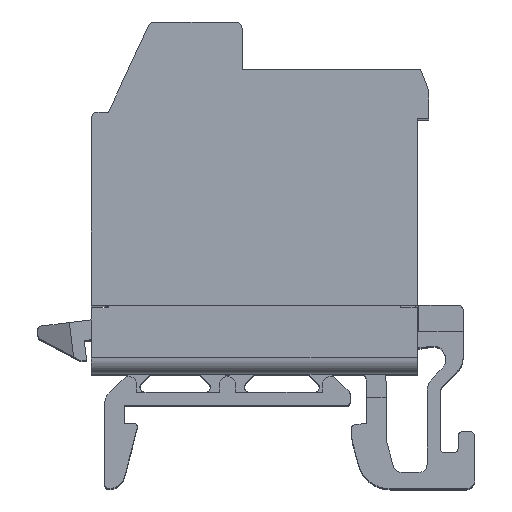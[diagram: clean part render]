
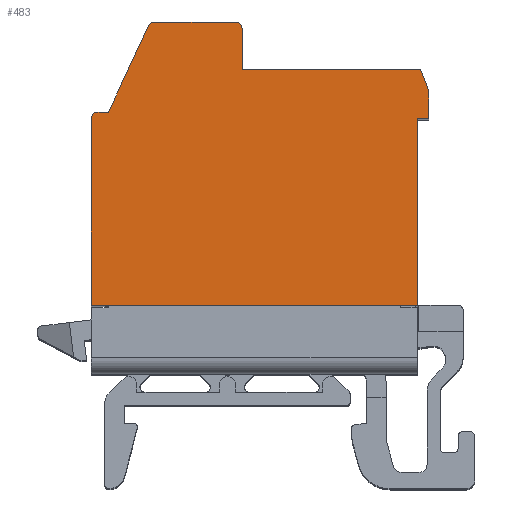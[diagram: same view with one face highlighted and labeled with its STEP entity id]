
A CAD part, top view. The second image highlights one B-rep face of the part: STEP entity #483.
In plain terms, the highlighted planar face has unit normal (0, 0, 1).
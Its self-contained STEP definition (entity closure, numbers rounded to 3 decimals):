
#483=ADVANCED_FACE('',(#16314),#16316,.T.);
#16314=FACE_BOUND('',#16315,.T.);
#16315=EDGE_LOOP('',(#29348,#29349,#29350,#29351,#29352,#29353,#29354,#29355,#29356,
#29357,#29358,#29359,#29360,#29361));
#16316=PLANE('',#16317);
#16317=AXIS2_PLACEMENT_3D('',#16318,#16319,#16320);
#16318=CARTESIAN_POINT('',(-25.427,-24.75,3.3));
#16319=DIRECTION('',(0.,0.,1.));
#16320=DIRECTION('',(1.,0.,0.));
#29348=ORIENTED_EDGE('',*,*,#40863,.T.);
#29349=ORIENTED_EDGE('',*,*,#40864,.T.);
#29350=ORIENTED_EDGE('',*,*,#40865,.T.);
#29351=ORIENTED_EDGE('',*,*,#40866,.T.);
#29352=ORIENTED_EDGE('',*,*,#40867,.T.);
#29353=ORIENTED_EDGE('',*,*,#40868,.T.);
#29354=ORIENTED_EDGE('',*,*,#40869,.T.);
#29355=ORIENTED_EDGE('',*,*,#40870,.T.);
#29356=ORIENTED_EDGE('',*,*,#40871,.T.);
#29357=ORIENTED_EDGE('',*,*,#40872,.T.);
#29358=ORIENTED_EDGE('',*,*,#40873,.T.);
#29359=ORIENTED_EDGE('',*,*,#40874,.T.);
#29360=ORIENTED_EDGE('',*,*,#40862,.T.);
#29361=ORIENTED_EDGE('',*,*,#40875,.T.);
#40862=EDGE_CURVE('',#45971,#45973,#45975,.T.);
#40863=EDGE_CURVE('',#45976,#45977,#45978,.T.);
#40864=EDGE_CURVE('',#45977,#45979,#45980,.T.);
#40865=EDGE_CURVE('',#45979,#45981,#45982,.T.);
#40866=EDGE_CURVE('',#45981,#45983,#45984,.T.);
#40867=EDGE_CURVE('',#45983,#45985,#45986,.T.);
#40868=EDGE_CURVE('',#45985,#45987,#45988,.T.);
#40869=EDGE_CURVE('',#45987,#45989,#45990,.T.);
#40870=EDGE_CURVE('',#45989,#45991,#45992,.T.);
#40871=EDGE_CURVE('',#45991,#45993,#45994,.T.);
#40872=EDGE_CURVE('',#45993,#45995,#45996,.T.);
#40873=EDGE_CURVE('',#45995,#45997,#45998,.T.);
#40874=EDGE_CURVE('',#45997,#45971,#45999,.T.);
#40875=EDGE_CURVE('',#45973,#45976,#46000,.T.);
#45971=VERTEX_POINT('',#54417);
#45973=VERTEX_POINT('',#54421);
#45975=LINE('',#54425,#54426);
#45976=VERTEX_POINT('',#54428);
#45977=VERTEX_POINT('',#54429);
#45978=LINE('',#54430,#54431);
#45979=VERTEX_POINT('',#54433);
#45980=CIRCLE('',#54434,0.4);
#45981=VERTEX_POINT('',#54438);
#45982=LINE('',#54439,#54440);
#45983=VERTEX_POINT('',#54442);
#45984=CIRCLE('',#54443,0.4);
#45985=VERTEX_POINT('',#54447);
#45986=LINE('',#54448,#54449);
#45987=VERTEX_POINT('',#54451);
#45988=LINE('',#54452,#54453);
#45989=VERTEX_POINT('',#54455);
#45990=CIRCLE('',#54456,0.4);
#45991=VERTEX_POINT('',#54460);
#45992=LINE('',#54461,#54462);
#45993=VERTEX_POINT('',#54464);
#45994=LINE('',#54465,#54466);
#45995=VERTEX_POINT('',#54468);
#45996=LINE('',#54469,#54470);
#45997=VERTEX_POINT('',#54472);
#45998=LINE('',#54473,#54474);
#45999=LINE('',#54476,#54477);
#46000=LINE('',#54479,#54480);
#54417=CARTESIAN_POINT('',(0.7,13.1,3.3));
#54421=CARTESIAN_POINT('',(0.2,14.4,3.3));
#54425=CARTESIAN_POINT('',(0.7,13.1,3.3));
#54426=VECTOR('',#54427,1.);
#54427=DIRECTION('',(-0.359,0.933,0.));
#54428=CARTESIAN_POINT('',(-10.7,14.4,3.3));
#54429=CARTESIAN_POINT('',(-10.7,16.9,3.3));
#54430=CARTESIAN_POINT('',(-10.7,14.4,3.3));
#54431=VECTOR('',#54432,1.);
#54432=DIRECTION('',(0.,1.,0.));
#54433=CARTESIAN_POINT('',(-11.1,17.3,3.3));
#54434=AXIS2_PLACEMENT_3D('',#54435,#54436,#54437);
#54435=CARTESIAN_POINT('',(-11.1,16.9,3.3));
#54436=DIRECTION('',(0.,0.,1.));
#54437=DIRECTION('',(1.,0.,0.));
#54438=CARTESIAN_POINT('',(-16.045,17.3,3.3));
#54439=CARTESIAN_POINT('',(-11.1,17.3,3.3));
#54440=VECTOR('',#54441,1.);
#54441=DIRECTION('',(-1.,0.,0.));
#54442=CARTESIAN_POINT('',(-16.408,17.069,3.3));
#54443=AXIS2_PLACEMENT_3D('',#54444,#54445,#54446);
#54444=CARTESIAN_POINT('',(-16.045,16.9,3.3));
#54445=DIRECTION('',(0.,0.,1.));
#54446=DIRECTION('',(0.,1.,0.));
#54447=CARTESIAN_POINT('',(-18.865,11.8,3.3));
#54448=CARTESIAN_POINT('',(-16.408,17.069,3.3));
#54449=VECTOR('',#54450,1.);
#54450=DIRECTION('',(-0.423,-0.906,0.));
#54451=CARTESIAN_POINT('',(-19.5,11.8,3.3));
#54452=CARTESIAN_POINT('',(-18.865,11.8,3.3));
#54453=VECTOR('',#54454,1.);
#54454=DIRECTION('',(-1.,0.,0.));
#54455=CARTESIAN_POINT('',(-19.9,11.4,3.3));
#54456=AXIS2_PLACEMENT_3D('',#54457,#54458,#54459);
#54457=CARTESIAN_POINT('',(-19.5,11.4,3.3));
#54458=DIRECTION('',(0.,0.,1.));
#54459=DIRECTION('',(0.,1.,0.));
#54460=CARTESIAN_POINT('',(-19.9,0.,3.3));
#54461=CARTESIAN_POINT('',(-19.9,11.4,3.3));
#54462=VECTOR('',#54463,1.);
#54463=DIRECTION('',(0.,-1.,0.));
#54464=CARTESIAN_POINT('',(0.,0.,3.3));
#54465=CARTESIAN_POINT('',(-19.9,0.,3.3));
#54466=VECTOR('',#54467,1.);
#54467=DIRECTION('',(1.,0.,0.));
#54468=CARTESIAN_POINT('',(0.,11.4,3.3));
#54469=CARTESIAN_POINT('',(0.,0.,3.3));
#54470=VECTOR('',#54471,1.);
#54471=DIRECTION('',(0.,1.,0.));
#54472=CARTESIAN_POINT('',(0.7,11.4,3.3));
#54473=CARTESIAN_POINT('',(0.,11.4,3.3));
#54474=VECTOR('',#54475,1.);
#54475=DIRECTION('',(1.,0.,0.));
#54476=CARTESIAN_POINT('',(0.7,11.4,3.3));
#54477=VECTOR('',#54478,1.);
#54478=DIRECTION('',(0.,1.,0.));
#54479=CARTESIAN_POINT('',(0.2,14.4,3.3));
#54480=VECTOR('',#54481,1.);
#54481=DIRECTION('',(-1.,0.,0.));
